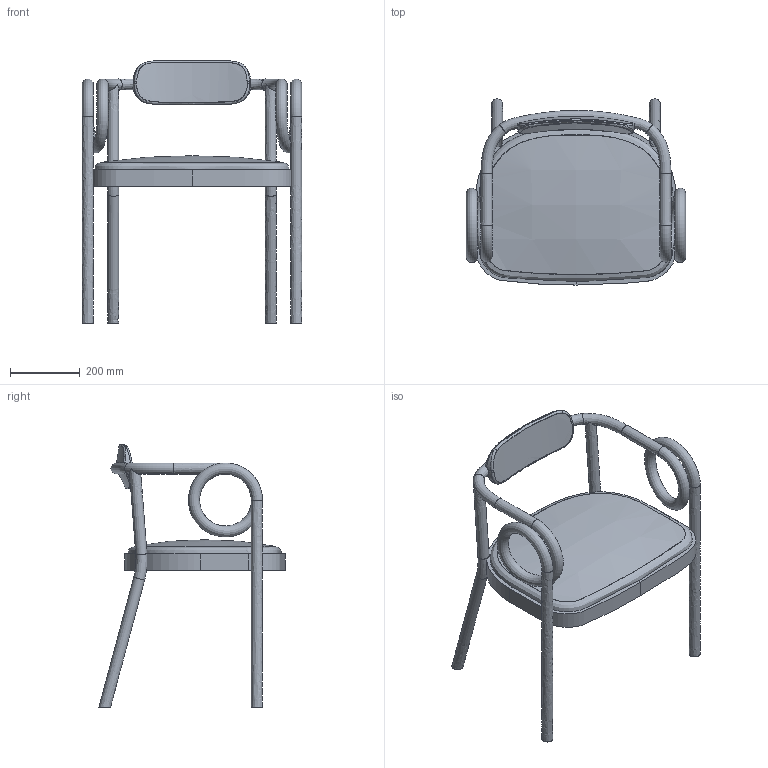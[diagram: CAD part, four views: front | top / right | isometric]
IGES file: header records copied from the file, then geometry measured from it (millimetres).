
Global section: file name: D:\Utente\Downloads\3D gtv 2023\3D LOOP DINING CHAIR\loop dining chair.igs; native system: Rhinoceros ( Aug 11 2021 ); preprocessor: Trout Lake IGES 012 Aug 11 2021; date: 230413.080953; units: millimetre
Bounding box: 628 x 533.31 x 753.29 mm (x, y, z)
Surface area: 1081517.8 mm2 (no closed solid volume)
Topology: 0 solids, 0 shells, 92 faces, 1570 edges, 1552 vertices
Faces by surface type: bspline 92
